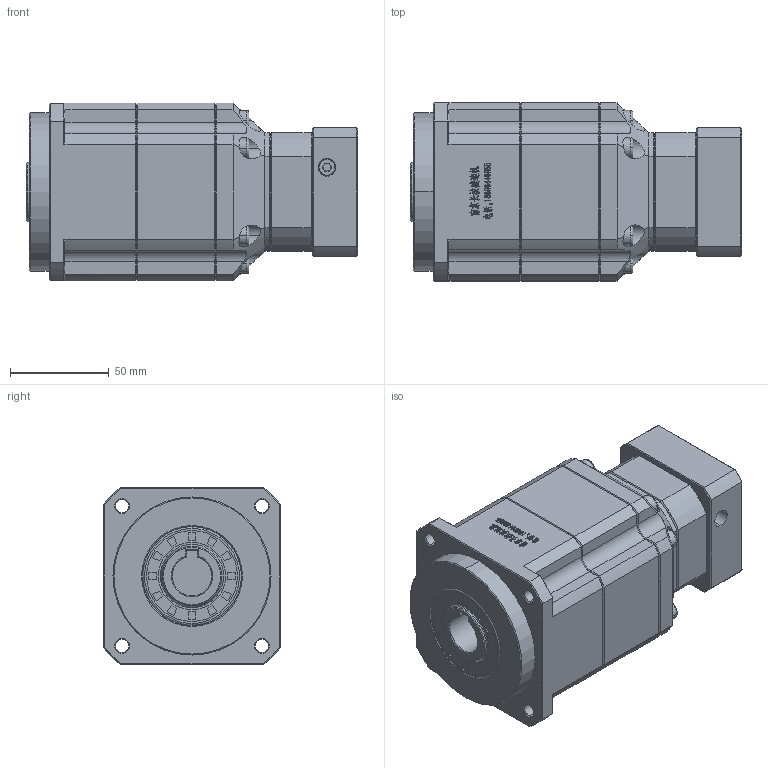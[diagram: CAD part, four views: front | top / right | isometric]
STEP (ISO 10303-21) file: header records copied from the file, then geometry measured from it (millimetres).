
FILE_DESCRIPTION (( 'STEP AP214' ), '1' );
FILE_NAME ('ZPB090-K20-L3-P1-14-60-75-M5.step', '2024-06-07T18:27:44', ( 'Windows 蚚誧' ), ( 'Organization' ), 'SwSTEP 2.0', 'SolidWorks 2016', '' );
FILE_SCHEMA (( 'AUTOMOTIVE_DESIGN' ));
Length unit declared in the file: millimetre
Products named in the file (1): ZPB090-K20-L3-P1-14-60-75-M5
Bounding box: 167.5 x 90 x 90 mm (x, y, z)
Surface area: 81508.6 mm2 (no closed solid volume)
Topology: 0 solids, 34 shells, 2117 faces, 5568 edges, 3518 vertices
Faces by surface type: plane 1111, bspline 398, cone 310, cylinder 298
Entity records: 97515 total; most frequent: CARTESIAN_POINT 43668, ORIENTED_EDGE 11098, DIRECTION 8843, EDGE_CURVE 5568, LINE 3569, VECTOR 3569, VERTEX_POINT 3518, AXIS2_PLACEMENT_3D 2637
